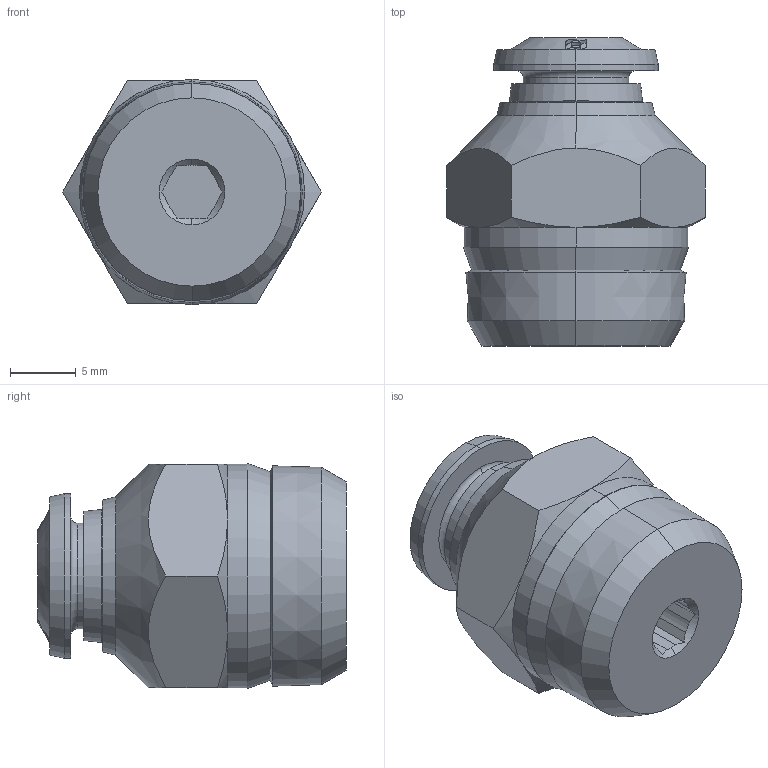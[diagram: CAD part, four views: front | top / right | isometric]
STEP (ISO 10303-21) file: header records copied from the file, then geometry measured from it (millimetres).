
FILE_DESCRIPTION (( 'STEP AP214' ), '1' );
FILE_NAME ('5500000014.step', '2012-10-02T17:30:52', ( '' ), ( '' ), 'SwSTEP 2.0', 'SolidWorks 2012', '' );
FILE_SCHEMA (( 'AUTOMOTIVE_DESIGN' ));
Length unit declared in the file: millimetre
Products named in the file (1): 5500000014
Bounding box: 19.63 x 23.4 x 17.1 mm (x, y, z)
Volume: 3988.5 mm3; surface area: 2028.3 mm2
Topology: 1 solids, 2 shells, 153 faces, 373 edges, 237 vertices
Faces by surface type: bspline 46, cone 45, plane 31, cylinder 27, torus 4
Entity records: 8659 total; most frequent: CARTESIAN_POINT 3766, ORIENTED_EDGE 746, DIRECTION 502, EDGE_CURVE 373, VERTEX_POINT 237, AXIS2_PLACEMENT_3D 205, B_SPLINE_CURVE_WITH_KNOTS 184, EDGE_LOOP 168
